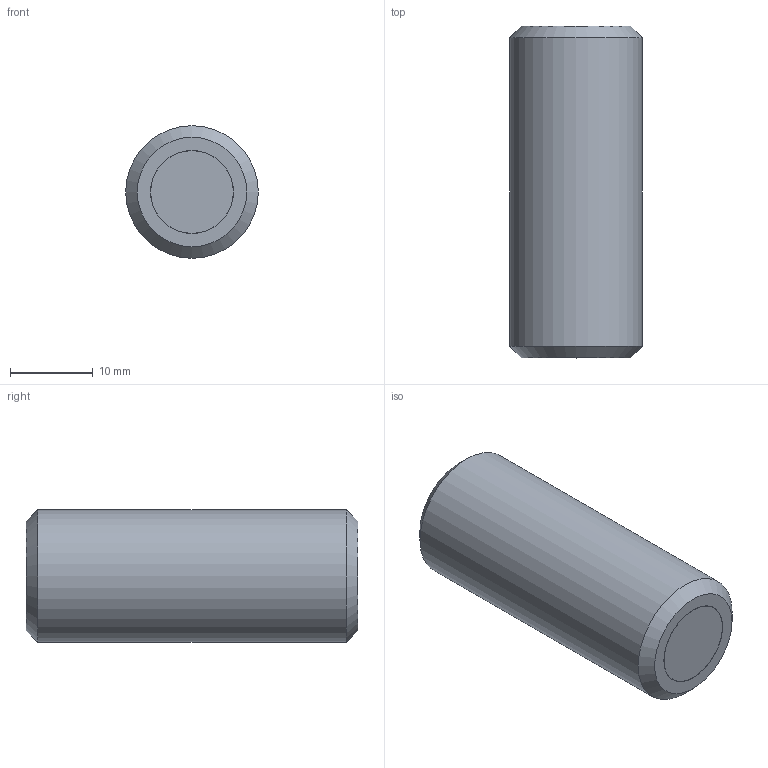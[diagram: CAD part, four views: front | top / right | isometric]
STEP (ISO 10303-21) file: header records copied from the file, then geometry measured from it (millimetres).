
FILE_DESCRIPTION(/* description */ ('STEP AP214'),/* implementation_level */ '2;1');
FILE_NAME(/* name */ 'Grub screw with retaining magnet GN 913.6-M16-40-ND',/* time_stamp */ '2023-10-03T11:28:19+02:00',/* author */ ('License CC BY-ND 4.0'),/* organization */ ('CADENAS'),/* preprocessor_version */ 'ST-DEVELOPER v19.3',/* originating_system */ 'PARTsolutions',/* authorisation */ ' ');
FILE_SCHEMA (('AUTOMOTIVE_DESIGN {1 0 10303 214 3 1 1}'));
Length unit declared in the file: millimetre
Products named in the file (1): Grub screw with retaining magnet GN 913.6-M16-40-ND
Bounding box: 16 x 40 x 16 mm (x, y, z)
Volume: 7487.5 mm3; surface area: 2546 mm2
Topology: 1 solids, 1 shells, 22 faces, 46 edges, 28 vertices
Faces by surface type: plane 16, cone 3, cylinder 3
Full cylindrical faces by diameter (mm): 9.96 x1, 10 x1, 16 x1
Entity records: 566 total; most frequent: DIRECTION 98, CARTESIAN_POINT 88, ORIENTED_EDGE 76, EDGE_CURVE 38, AXIS2_PLACEMENT_3D 37, FACE_BOUND 31, EDGE_LOOP 30, VERTEX_POINT 27
